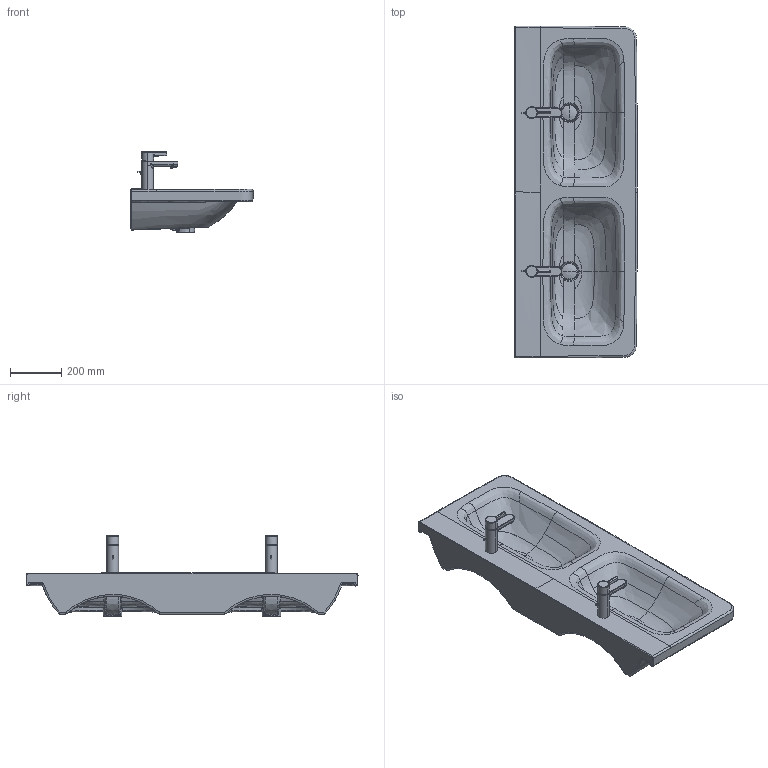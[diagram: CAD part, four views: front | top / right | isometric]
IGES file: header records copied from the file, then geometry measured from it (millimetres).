
Global section: file name: No Iges File Name specified; native system: Autodesk Inventor 2011; preprocessor: AutoDesk Inventor Iges Exporter R2011; author: Administrator; date: 20150527.145414; units: millimetre
Bounding box: 480.03 x 1300.5 x 316.46 mm (x, y, z)
Volume: 36528624.5 mm3; surface area: 2182062.3 mm2
Topology: 13 solids, 13 shells, 890 faces, 2204 edges, 1332 vertices
Faces by surface type: bspline 462, plane 156, revolution 126, cylinder 106, torus 30, cone 6, sphere 4
